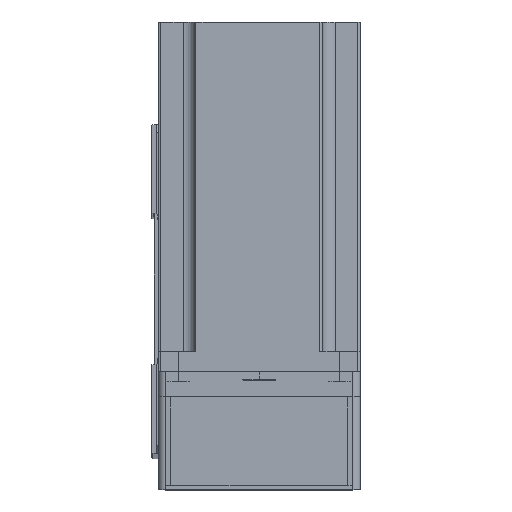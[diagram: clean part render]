
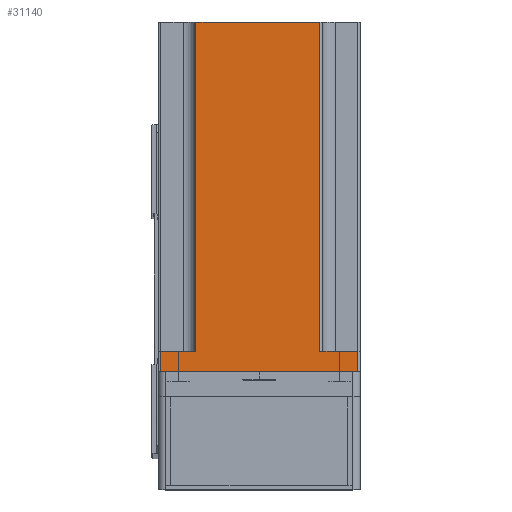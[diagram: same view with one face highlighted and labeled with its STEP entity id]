
A CAD part, top view. The second image highlights one B-rep face of the part: STEP entity #31140.
In plain terms, the highlighted planar face has unit normal (0, 0, 1) as drawn and (-1, 0, 0) by its records, which use the part's own axes.
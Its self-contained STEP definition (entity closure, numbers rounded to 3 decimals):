
#411 = VECTOR ( 'NONE', #782, 1000. ) ;
#782 = DIRECTION ( 'NONE',  ( 0., -1., 0. ) ) ;
#916 = CARTESIAN_POINT ( 'NONE',  ( -40., -24., 138.3 ) ) ;
#5774 = CARTESIAN_POINT ( 'NONE',  ( -40., 39., 0. ) ) ;
#6191 = DIRECTION ( 'NONE',  ( 0., -1., 0. ) ) ;
#6220 = ORIENTED_EDGE ( 'NONE', *, *, #42362, .T. ) ;
#6225 = CARTESIAN_POINT ( 'NONE',  ( -40., -39., 0. ) ) ;
#9398 = ORIENTED_EDGE ( 'NONE', *, *, #19972, .T. ) ;
#9597 = CARTESIAN_POINT ( 'NONE',  ( -40., 39., 138.3 ) ) ;
#9782 = EDGE_CURVE ( 'NONE', #11672, #38039, #17192, .T. ) ;
#10041 = CARTESIAN_POINT ( 'NONE',  ( -40., 40., 8. ) ) ;
#10435 = CARTESIAN_POINT ( 'NONE',  ( -40., 25., 8. ) ) ;
#10480 = LINE ( 'NONE', #25802, #32049 ) ;
#10630 = DIRECTION ( 'NONE',  ( 1., 0., 0. ) ) ;
#11672 = VERTEX_POINT ( 'NONE', #16245 ) ;
#11701 = LINE ( 'NONE', #34679, #22451 ) ;
#11809 = CARTESIAN_POINT ( 'NONE',  ( -40., -24., 138.3 ) ) ;
#13888 = DIRECTION ( 'NONE',  ( 0., -1., 0. ) ) ;
#13958 = ORIENTED_EDGE ( 'NONE', *, *, #9782, .F. ) ;
#14130 = VERTEX_POINT ( 'NONE', #38698 ) ;
#14428 = CARTESIAN_POINT ( 'NONE',  ( -40., -39., 8. ) ) ;
#14952 = VECTOR ( 'NONE', #13888, 1000. ) ;
#15877 = DIRECTION ( 'NONE',  ( 0., 0., 1. ) ) ;
#15917 = VECTOR ( 'NONE', #6191, 1000. ) ;
#16224 = LINE ( 'NONE', #42317, #14952 ) ;
#16245 = CARTESIAN_POINT ( 'NONE',  ( -40., 25., 138.3 ) ) ;
#17192 = LINE ( 'NONE', #34578, #15917 ) ;
#18083 = ORIENTED_EDGE ( 'NONE', *, *, #35728, .T. ) ;
#18767 = EDGE_LOOP ( 'NONE', ( #50863, #28020, #13958, #37488, #6220, #21403, #9398, #18083 ) ) ;
#19972 = EDGE_CURVE ( 'NONE', #23273, #40077, #16224, .T. ) ;
#20441 = VERTEX_POINT ( 'NONE', #33906 ) ;
#21403 = ORIENTED_EDGE ( 'NONE', *, *, #40410, .T. ) ;
#22451 = VECTOR ( 'NONE', #30959, 1000. ) ;
#22988 = EDGE_CURVE ( 'NONE', #20441, #38039, #50694, .T. ) ;
#23273 = VERTEX_POINT ( 'NONE', #5774 ) ;
#25368 = VERTEX_POINT ( 'NONE', #10435 ) ;
#25719 = LINE ( 'NONE', #9597, #47368 ) ;
#25802 = CARTESIAN_POINT ( 'NONE',  ( -40., 25., 8. ) ) ;
#25974 = VERTEX_POINT ( 'NONE', #14428 ) ;
#27972 = LINE ( 'NONE', #10041, #29301 ) ;
#28020 = ORIENTED_EDGE ( 'NONE', *, *, #22988, .T. ) ;
#29106 = VECTOR ( 'NONE', #15877, 1000. ) ;
#29301 = VECTOR ( 'NONE', #34348, 1000. ) ;
#30007 = DIRECTION ( 'NONE',  ( 0., 0., -1. ) ) ;
#30438 = EDGE_CURVE ( 'NONE', #20441, #25974, #31523, .T. ) ;
#30959 = DIRECTION ( 'NONE',  ( 0., 0., 1. ) ) ;
#31140 = ADVANCED_FACE ( 'NONE', ( #32695 ), #42949, .F. ) ;
#31523 = LINE ( 'NONE', #45515, #411 ) ;
#32049 = VECTOR ( 'NONE', #50165, 1000. ) ;
#32695 = FACE_OUTER_BOUND ( 'NONE', #18767, .T. ) ;
#33906 = CARTESIAN_POINT ( 'NONE',  ( -40., -24., 8. ) ) ;
#34348 = DIRECTION ( 'NONE',  ( 0., 1., 0. ) ) ;
#34578 = CARTESIAN_POINT ( 'NONE',  ( -40., -40., 138.3 ) ) ;
#34679 = CARTESIAN_POINT ( 'NONE',  ( -40., -39., 138.3 ) ) ;
#34950 = CARTESIAN_POINT ( 'NONE',  ( -40., -40., 138.3 ) ) ;
#35728 = EDGE_CURVE ( 'NONE', #40077, #25974, #11701, .T. ) ;
#37488 = ORIENTED_EDGE ( 'NONE', *, *, #40999, .F. ) ;
#38039 = VERTEX_POINT ( 'NONE', #916 ) ;
#38698 = CARTESIAN_POINT ( 'NONE',  ( -40., 39., 8. ) ) ;
#39035 = DIRECTION ( 'NONE',  ( 0., 0., -1. ) ) ;
#40077 = VERTEX_POINT ( 'NONE', #6225 ) ;
#40410 = EDGE_CURVE ( 'NONE', #14130, #23273, #25719, .T. ) ;
#40999 = EDGE_CURVE ( 'NONE', #25368, #11672, #10480, .T. ) ;
#41853 = AXIS2_PLACEMENT_3D ( 'NONE', #34950, #10630, #39035 ) ;
#42317 = CARTESIAN_POINT ( 'NONE',  ( -40., -40., 0. ) ) ;
#42362 = EDGE_CURVE ( 'NONE', #25368, #14130, #27972, .T. ) ;
#42949 = PLANE ( 'NONE',  #41853 ) ;
#45515 = CARTESIAN_POINT ( 'NONE',  ( -40., -40., 8. ) ) ;
#47368 = VECTOR ( 'NONE', #30007, 1000. ) ;
#50165 = DIRECTION ( 'NONE',  ( 0., 0., 1. ) ) ;
#50694 = LINE ( 'NONE', #11809, #29106 ) ;
#50863 = ORIENTED_EDGE ( 'NONE', *, *, #30438, .F. ) ;
